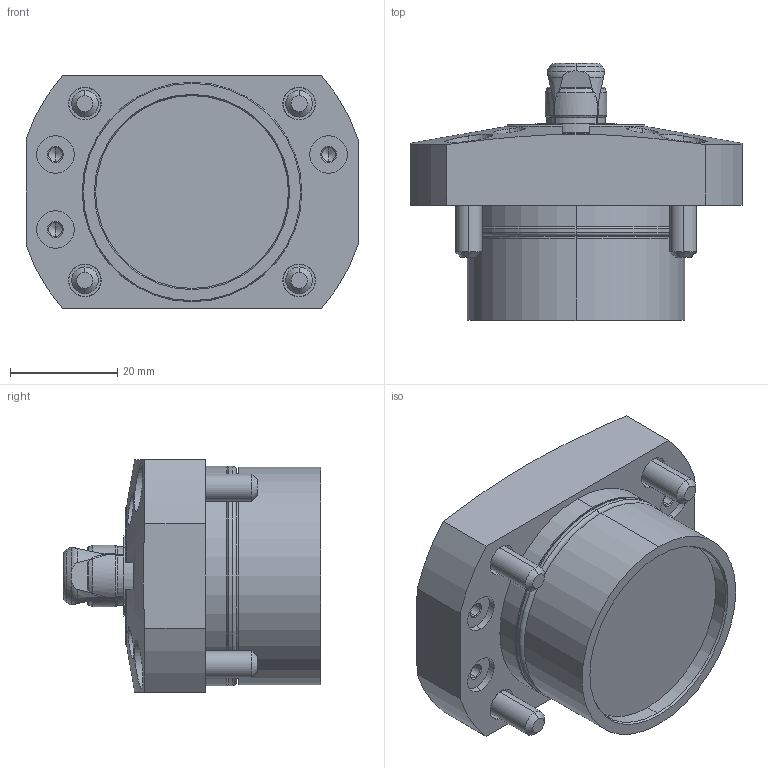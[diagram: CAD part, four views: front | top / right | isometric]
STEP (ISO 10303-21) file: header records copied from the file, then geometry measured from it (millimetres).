
FILE_DESCRIPTION (( 'STEP AP203' ), '1' );
FILE_NAME ('SFH2120.STEP', '2010-11-03T23:12:57', ( ' ' ), ( ' ' ), 'SwSTEP 2.0', 'SolidWorks 2010', '' );
FILE_SCHEMA (( 'CONFIG_CONTROL_DESIGN' ));
Length unit declared in the file: millimetre
Products named in the file (7): φ12_ｽﾘｰﾌﾞ; SFH2120; SFH2120_套菁轤礁诎蔬晅; SFH2_钾堇轤O剌皋晅; 冇12_郫霓; 6妏寠晅无倌_M3_10; 6妏寠晅无倌_M5_16
Assembly tree (12 placements, depth 2):
  SFH2120
    SFH2120_套菁轤礁诎蔬晅
    6妏寠晅无倌_M3_10  x4
    冇12_郫霓
    6妏寠晅无倌_M5_16  x4
    φ12_ｽﾘｰﾌﾞ
    SFH2_钾堇轤O剌皋晅
Bounding box: 62 x 48 x 43.5 mm (x, y, z)
Volume: 59142.1 mm3; surface area: 21801.4 mm2
Topology: 16 solids, 16 shells, 493 faces, 1017 edges, 568 vertices
Faces by surface type: plane 192, cone 156, cylinder 126, torus 19
Entity records: 10163 total; most frequent: CARTESIAN_POINT 2431, DIRECTION 1508, ORIENTED_EDGE 1362, EDGE_CURVE 681, AXIS2_PLACEMENT_3D 627, VERTEX_POINT 418, EDGE_LOOP 349, ADVANCED_FACE 307
